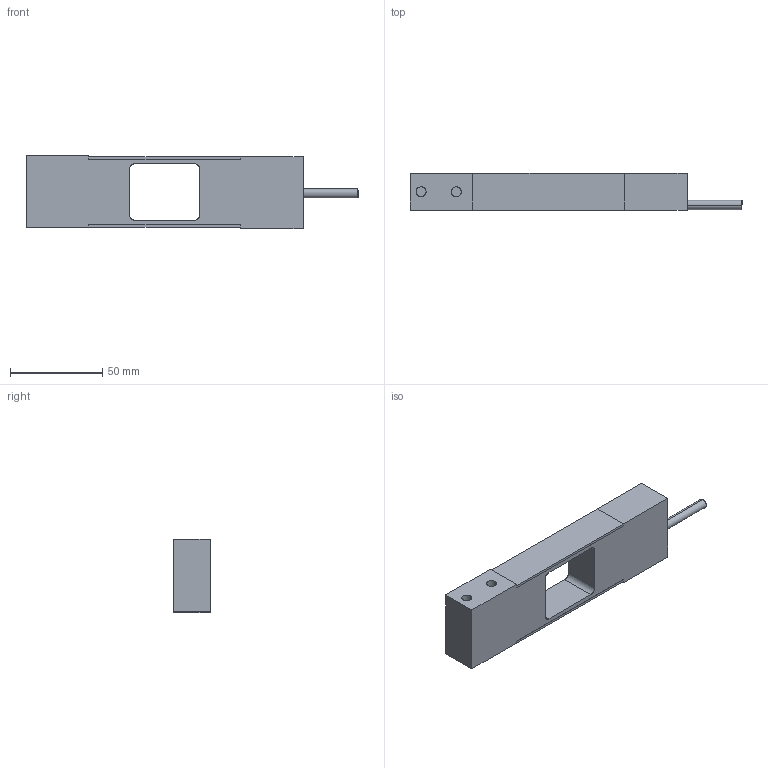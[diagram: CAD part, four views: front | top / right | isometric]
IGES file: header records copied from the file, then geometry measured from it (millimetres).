
Start section: SolidWorks IGES file using analytic representation for surfaces
Global section: file name: C:\Users\nasc01\Desktop\Assemblies for Conversion\Load_Sensor_HiSPA42_5kg-30kg\Load_Sensor_HiSPA42_5kg-30kg_3D\Load_Sensor_HiSPA42_5kg-30kg.IGS; native system: SolidWorks 2013; preprocessor: SolidWorks 2013; author: nasc01; date: 141009.085529; units: millimetre
Bounding box: 179.71 x 20.23 x 40 mm (x, y, z)
Surface area: 20851.1 mm2 (no closed solid volume)
Topology: 0 solids, 0 shells, 51 faces, 624 edges, 624 vertices
Faces by surface type: bspline 35, revolution 16
